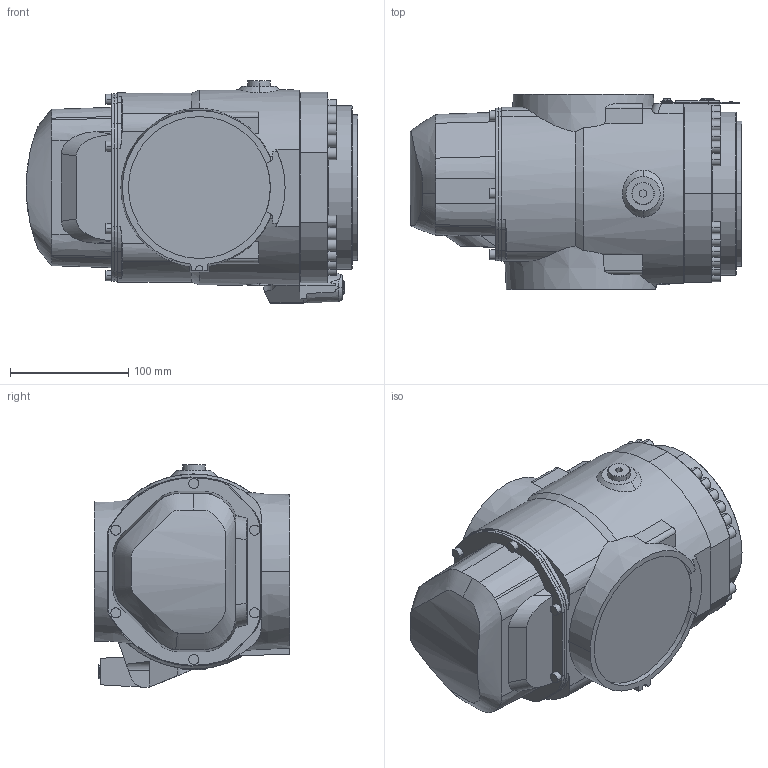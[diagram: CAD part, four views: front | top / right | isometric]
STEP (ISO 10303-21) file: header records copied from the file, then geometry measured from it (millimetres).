
FILE_DESCRIPTION (( 'STEP AP214' ), '1' );
FILE_NAME ('IRB5720-LID_90kg-300_OmniCore_rev00_LINK05_CAD.step', '2025-07-08T10:56:27', ( '' ), ( '' ), 'SwSTEP 2.0', 'SolidWorks 2024', '' );
FILE_SCHEMA (( 'AUTOMOTIVE_DESIGN' ));
Length unit declared in the file: millimetre
Products named in the file (1): IRB5720-LID_90kg-300_OmniCore_rev00_LINK05_CAD
Bounding box: 280.5 x 165 x 188.56 mm (x, y, z)
Volume: 5083211.8 mm3; surface area: 200846.3 mm2
Topology: 1 solids, 5 shells, 563 faces, 1450 edges, 924 vertices
Faces by surface type: plane 261, cylinder 167, cone 97, bspline 22, torus 16
Entity records: 20482 total; most frequent: CARTESIAN_POINT 6737, ORIENTED_EDGE 2892, DIRECTION 2847, EDGE_CURVE 1446, AXIS2_PLACEMENT_3D 1087, VERTEX_POINT 924, LINE 673, VECTOR 673
